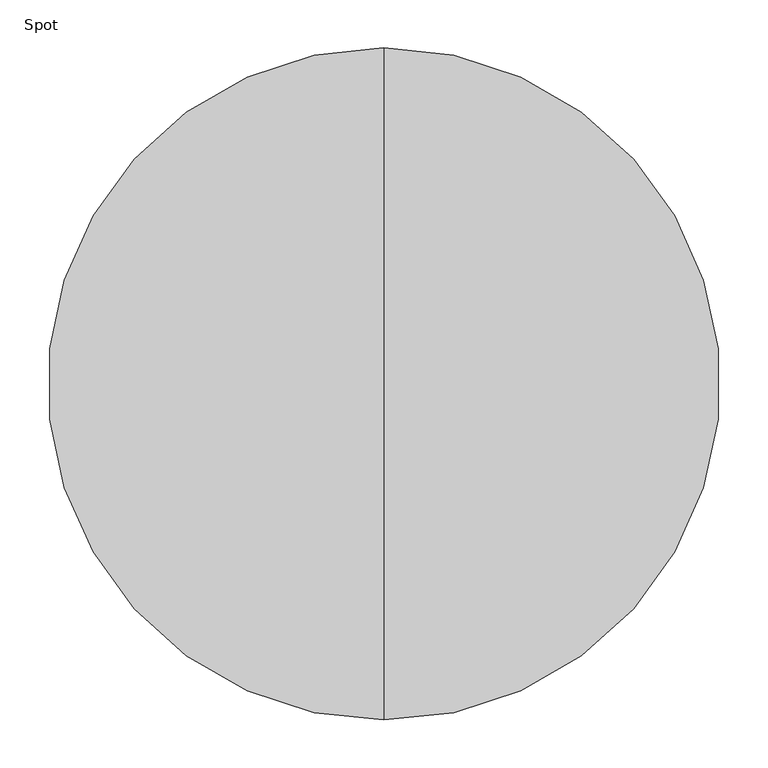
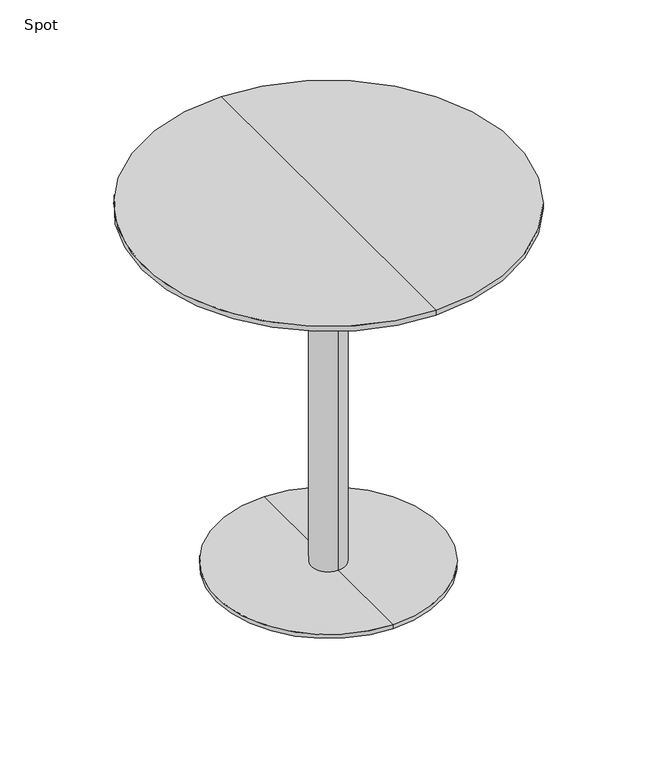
"""IFC4 building model written with IfcOpenShell, lengths in millimetres: furniture geometry, Spot : ø70x72."""

from ifc_helpers import new_model, si_unit, frame, origin, place, context, project, spatial, polyline, circle_curve, source, transform, mapped, element, save
from ifc_brep_helpers import plane_surface, cylinder_surface, revolved_surface, advanced_brep


def spot_f1b3041a(model_context):
    return source(origin(), model_context, "Body", "AdvancedBrep", [
        advanced_brep(
        [(0.0, 350.0, 720.0), (0.0, -350.0, 720.0), (0.0, 0.0, 720.0), (0.0, 350.0, 710.25), (0.0, -350.0, 710.25), (0.0, 304.2823776, 698.0), (0.0, -304.2823776, 698.0), (0.0, 0.0, 698.0)],
        [
            (0, 1, circle_curve(frame((0.0, 0.0, 720.0), z_axis=(0.0, 0.0, 1.0), x_axis=(0.0, -1.0, 0.0)), 350.0)),
            (1, 2),
            (2, 0),
            (1, 0, circle_curve(frame((0.0, 0.0, 720.0), z_axis=(0.0, 0.0, 1.0), x_axis=(0.0, -1.0, 0.0)), 350.0)),
            (3, 4, circle_curve(frame((0.0, 0.0, 710.25), z_axis=(0.0, 0.0, 1.0), x_axis=(0.0, -1.0, 0.0)), 350.0)),
            (4, 1),
            (0, 3),
            (4, 3, circle_curve(frame((0.0, 0.0, 710.25), z_axis=(0.0, 0.0, 1.0), x_axis=(0.0, -1.0, 0.0)), 350.0)),
            (5, 6, circle_curve(frame((0.0, 0.0, 698.0), z_axis=(0.0, 0.0, 1.0), x_axis=(0.0, -1.0, 0.0)), 304.2823776)),
            (6, 4),
            (3, 5),
            (6, 5, circle_curve(frame((0.0, 0.0, 698.0), z_axis=(0.0, 0.0, 1.0), x_axis=(0.0, -1.0, 0.0)), 304.2823776)),
            (7, 6),
            (5, 7),
        ],
        [
            plane_surface(frame((0.0, 0.0, 720.0), z_axis=(0.0, 0.0, 1.0), x_axis=(0.0, -1.0, 0.0))),
            cylinder_surface(frame((0.0, 0.0, 800.0), z_axis=(0.0, 0.0, -1.0), x_axis=(0.0, -1.0, 0.0)), 350.0),
            revolved_surface(polyline([(0.0, -350.0, 710.25), (0.0, -304.2823776, 698.0)]), (0.0, 0.0, 800.0), (0.0, 0.0, -1.0)),
            plane_surface(frame((0.0, 0.0, 698.0), z_axis=(0.0, 0.0, -1.0), x_axis=(0.0, -1.0, 0.0))),
        ],
        [
            (0, [[1, 2, 3]]),
            (0, [[4, -3, -2]]),
            (1, [[5, 6, -1, 7]]),
            (1, [[8, -7, -4, -6]]),
            (2, [[9, 10, -5, 11]]),
            (2, [[12, -11, -8, -10]]),
            (3, [[13, -9, 14]]),
            (3, [[-14, -12, -13]]),
        ],
    ),
        advanced_brep(
        [(0.0, 32.0, 10.0), (0.0, -32.0, 10.0), (0.0, -32.0, 667.406916), (0.0, 32.0, 667.406916), (0.0, 210.0, 10.0), (0.0, -210.0, 10.0), (0.0, 210.0, 2.0), (0.0, -210.0, 2.0), (0.0, 0.0, 2.0), (0.0, 150.0, 698.0), (0.0, -150.0, 698.0), (0.0, 0.0, 698.0), (0.0, 150.0, 686.7213673), (0.0, -150.0, 686.7213673)],
        [
            (0, 1, circle_curve(frame((0.0, 0.0, 10.0), z_axis=(0.0, 0.0, 1.0), x_axis=(0.0, -1.0, 0.0)), 32.0)),
            (1, 2),
            (2, 3, circle_curve(frame((0.0, 0.0, 667.406916), z_axis=(0.0, 0.0, -1.0), x_axis=(0.0, -1.0, 0.0)), 32.0)),
            (3, 0),
            (1, 0, circle_curve(frame((0.0, 0.0, 10.0), z_axis=(0.0, 0.0, 1.0), x_axis=(0.0, -1.0, 0.0)), 32.0)),
            (3, 2, circle_curve(frame((0.0, 0.0, 667.406916), z_axis=(0.0, 0.0, -1.0), x_axis=(0.0, -1.0, 0.0)), 32.0)),
            (4, 5, circle_curve(frame((0.0, 0.0, 10.0), z_axis=(0.0, 0.0, 1.0), x_axis=(0.0, -1.0, 0.0)), 210.0)),
            (5, 1),
            (0, 4),
            (5, 4, circle_curve(frame((0.0, 0.0, 10.0), z_axis=(0.0, 0.0, 1.0), x_axis=(0.0, -1.0, 0.0)), 210.0)),
            (6, 7, circle_curve(frame((0.0, 0.0, 2.0), z_axis=(0.0, 0.0, 1.0), x_axis=(0.0, -1.0, 0.0)), 210.0)),
            (7, 5),
            (4, 6),
            (7, 6, circle_curve(frame((0.0, 0.0, 2.0), z_axis=(0.0, 0.0, 1.0), x_axis=(0.0, -1.0, 0.0)), 210.0)),
            (8, 7),
            (6, 8),
            (9, 10, circle_curve(frame((0.0, 0.0, 698.0), z_axis=(0.0, 0.0, 1.0), x_axis=(0.0, -1.0, 0.0)), 150.0)),
            (10, 11),
            (11, 9),
            (10, 9, circle_curve(frame((0.0, 0.0, 698.0), z_axis=(0.0, 0.0, 1.0), x_axis=(0.0, -1.0, 0.0)), 150.0)),
            (12, 13, circle_curve(frame((0.0, 0.0, 686.7213673), z_axis=(0.0, 0.0, 1.0), x_axis=(0.0, -1.0, 0.0)), 150.0)),
            (13, 10),
            (9, 12),
            (13, 12, circle_curve(frame((0.0, 0.0, 686.7213673), z_axis=(0.0, 0.0, 1.0), x_axis=(0.0, -1.0, 0.0)), 150.0)),
            (2, 13),
            (12, 3),
        ],
        [
            cylinder_surface(frame((0.0, 0.0, 1060.0), z_axis=(0.0, 0.0, -1.0), x_axis=(0.0, -1.0, 0.0)), 32.0),
            plane_surface(frame((0.0, 0.0, 10.0), z_axis=(0.0, 0.0, 1.0), x_axis=(0.0, -1.0, 0.0))),
            cylinder_surface(frame((0.0, 0.0, 1060.0), z_axis=(0.0, 0.0, -1.0), x_axis=(0.0, -1.0, 0.0)), 210.0),
            plane_surface(frame((0.0, 0.0, 2.0), z_axis=(0.0, 0.0, -1.0), x_axis=(0.0, -1.0, 0.0))),
            plane_surface(frame((0.0, 0.0, 698.0), z_axis=(0.0, 0.0, 1.0), x_axis=(0.0, -1.0, 0.0))),
            cylinder_surface(frame((0.0, 0.0, 1060.0), z_axis=(0.0, 0.0, -1.0), x_axis=(0.0, -1.0, 0.0)), 150.0),
            revolved_surface(polyline([(0.0, -150.0, 686.7213673), (0.0, -32.0, 667.406916)]), (0.0, 0.0, 1060.0), (0.0, 0.0, -1.0)),
        ],
        [
            (0, [[1, 2, 3, 4]]),
            (0, [[5, -4, 6, -2]]),
            (1, [[7, 8, -1, 9]]),
            (1, [[10, -9, -5, -8]]),
            (2, [[11, 12, -7, 13]]),
            (2, [[14, -13, -10, -12]]),
            (3, [[15, -11, 16]]),
            (3, [[-16, -14, -15]]),
            (4, [[17, 18, 19]]),
            (4, [[20, -19, -18]]),
            (5, [[21, 22, -17, 23]]),
            (5, [[24, -23, -20, -22]]),
            (6, [[-3, 25, -21, 26]]),
            (6, [[-6, -26, -24, -25]]),
        ],
    ),
    ])


if __name__ == "__main__":
    model = new_model("IFC4")
    model_context = context("Model", 3, world=origin())
    ifc_project = project(units=[si_unit("LENGTHUNIT", "METRE", prefix="MILLI")], contexts=[model_context])
    site = spatial("IfcSite", under=ifc_project)
    building = spatial("IfcBuilding", under=site)
    placement = place(None, origin())
    spot_shape = spot_f1b3041a(model_context)
    element("IfcFurniture", 1, ObjectType="Spot : ø70x72", at=placement, inside=building, context=model_context, shape_type="MappedRepresentation", body=[
        mapped(spot_shape, transform((0.0, 0.0, 0.0), x_axis=(1.0, 0.0, 0.0), y_axis=(0.0, 1.0, 0.0), z_axis=(0.0, 0.0, 1.0))),
    ])
    save(model, "model.ifc")
